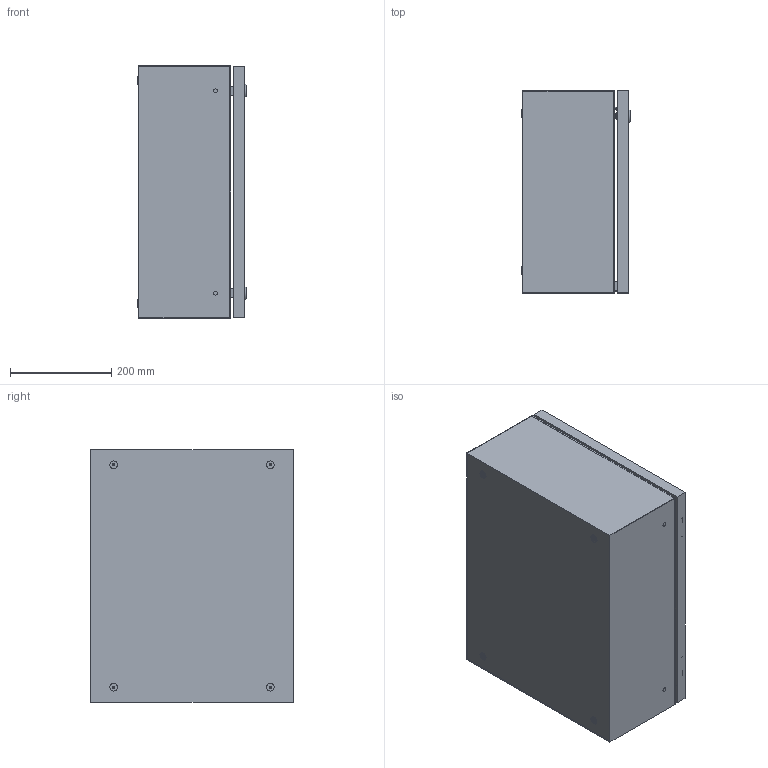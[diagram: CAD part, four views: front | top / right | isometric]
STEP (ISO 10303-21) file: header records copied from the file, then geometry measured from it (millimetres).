
FILE_DESCRIPTION(/* description */ ('Unknown'),/* implementation_level */ '2;1');
FILE_NAME(/* name */ 'CCA04005021',/* time_stamp */ '2024-07-26T13:55:04+02:00',/* author */ ('Unknown'),/* organization */ ('Unknown'),/* preprocessor_version */ 'ST-DEVELOPER v19.4',/* originating_system */ 'Solid Edge',/* authorisation */ 'Unknown');
FILE_SCHEMA (('AUTOMOTIVE_DESIGN {1 0 10303 214 3 1 1}'));
Length unit declared in the file: millimetre
Products named in the file (16): CCA04005021; C000X000.19_oa_0; C000X000.20_oa_1; C0000000.32; C0000000.02; AE00198.02; AE00989.09; AE00417.01; C000X000.18_oa_2; C0000000.14; C0000000.04; C0000000.05; AE00316.01; AE00601.01; AE00891.02; C0000000.01
Assembly tree (35 placements, depth 4):
  CCA04005021
    C000X000.19_oa_0
      C000X000.20_oa_1
        C0000000.32
      C0000000.02  x2
      AE00198.02  x2
      AE00989.09  x2
      AE00417.01  x2
    AE00198.02  x2
    C000X000.18_oa_2
      C0000000.14
      C0000000.04  x4
      C0000000.05  x4
      AE00316.01  x2
      AE00601.01  x2
      AE00891.02  x2
      C0000000.01  x2
      AE00417.01  x4
Bounding box: 215 x 400 x 500 mm (x, y, z)
Volume: 1499035 mm3; surface area: 1641821 mm2
Topology: 34 solids, 34 shells, 666 faces, 1620 edges, 1054 vertices
Faces by surface type: plane 434, cylinder 162, cone 36, torus 34
Full cylindrical faces by diameter (mm): 4 x2, 4.917 x6, 4.918 x2, 5.4 x2, 6 x14, 6.4 x2, 7.5 x6, 8 x4, 8.376 x8, 10 x6, 10.25 x4, 10.5 x4, 11 x2, 13.6 x2, 14 x4, 15 x4, 16 x4, 16.3 x2, 19.5 x2, 28 x2
Entity records: 11376 total; most frequent: CARTESIAN_POINT 1749, DIRECTION 1672, ORIENTED_EDGE 1540, EDGE_CURVE 770, AXIS2_PLACEMENT_3D 560, LINE 552, VECTOR 552, VERTEX_POINT 528
